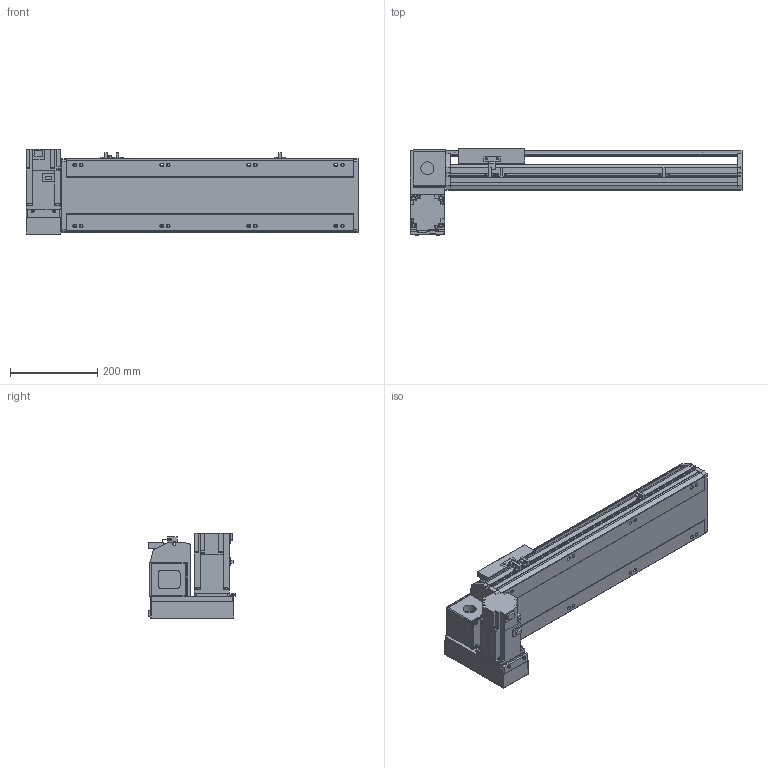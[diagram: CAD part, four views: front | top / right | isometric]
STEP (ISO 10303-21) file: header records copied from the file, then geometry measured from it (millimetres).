
FILE_DESCRIPTION( ( 'STEP AP214' ), '1' );
FILE_NAME( 'x:/temp/worker_3/temp/exporttempdir_5412_2_14OT5/format_0/PBS170-P40-S400-LD-T75-C1-N(0).stp', '2022-06-07T07:50:33', ( 'License CC BY-ND 4.0' ), ( 'CADENAS' ), ' ', 'PARTsolutions', ' ' );
FILE_SCHEMA( ( 'AUTOMOTIVE_DESIGN { 1 0 10303 214 1 1 1 1 }' ) );
Length unit declared in the file: millimetre
Products named in the file (7): PBS170-P40-S400-LD-T75-C1-N(0); _PBS170-S400()_body; _PBS170T-LD_motors; _T75-p1; _PBS170_sliser; _PBS170_plant; _PBS170_sensor
Assembly tree (8 placements, depth 2):
  PBS170-P40-S400-LD-T75-C1-N(0)
    _PBS170-S400()_body
    _PBS170T-LD_motors
    _T75-p1
    _PBS170_sliser
    _PBS170_plant
    _PBS170_sensor  x3
Bounding box: 763 x 201 x 197.3 mm (x, y, z)
Volume: 6717486 mm3; surface area: 923495.1 mm2
Topology: 8 solids, 8 shells, 1018 faces, 2715 edges, 1770 vertices
Faces by surface type: plane 663, cylinder 307, cone 38, sphere 8, torus 2
Full cylindrical faces by diameter (mm): 3.242 x4, 4 x2, 4.4 x4, 4.5 x6, 4.917 x4, 6 x9, 6.647 x16, 7 x2, 7.5 x4, 8 x8, 8.5 x8, 10 x4, 10.5 x8, 11 x2, 30 x2, 40 x1, 70 x1
Entity records: 37172 total; most frequent: CARTESIAN_POINT 5549, DIRECTION 5020, ORIENTED_EDGE 4788, EDGE_CURVE 2394, AXIS2_PLACEMENT_3D 1717, VERTEX_POINT 1634, LINE 1586, VECTOR 1586
